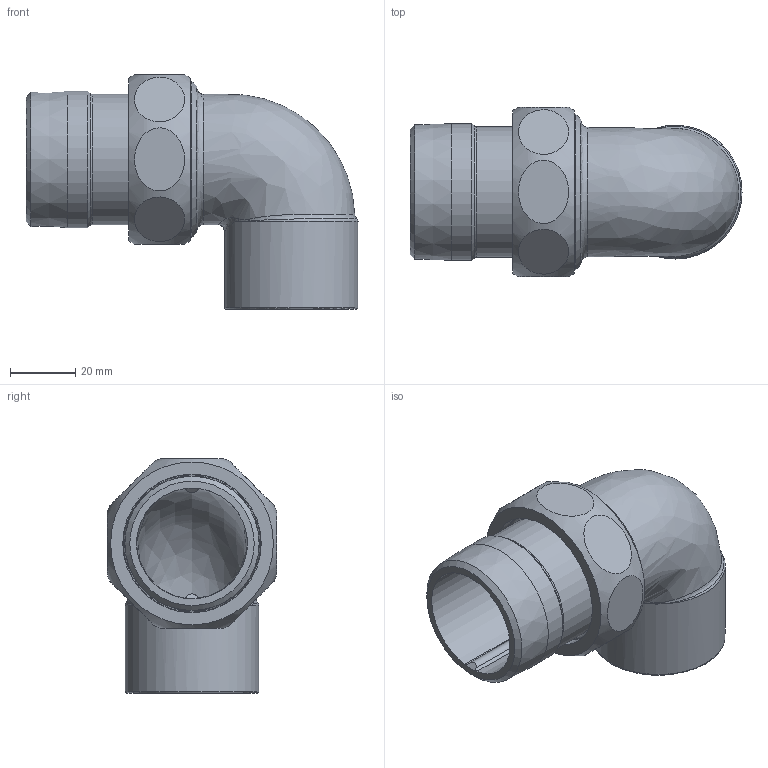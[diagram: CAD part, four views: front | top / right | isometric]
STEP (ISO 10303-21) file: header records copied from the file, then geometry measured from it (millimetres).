
FILE_DESCRIPTION((''),'2;1');
FILE_NAME('\\Lg50001\groups\SANHA Legnica\Engineering\Public\RYSUNKI\SANHA POLSKA\4098g\step\14098g_35-114(1).stp','2013-09-18T11:37:42',('lukawski'),(''),'Autodesk Inventor 2009','Autodesk Inventor 2009','');
FILE_SCHEMA(('AUTOMOTIVE_DESIGN { 1 0 10303 214 1 1 1 1 }'));
Length unit declared in the file: millimetre
Products named in the file (4): 14098g_35-114(1); 14382_114-112(2); 1E4098g_35-112(0); 14374_112(0)
Assembly tree (3 placements, depth 2):
  14098g_35-114(1)
    14382_114-112(2)
    1E4098g_35-112(0)
    14374_112(0)
Bounding box: 101.94 x 52 x 72 mm (x, y, z)
Volume: 62755.7 mm3; surface area: 38226.2 mm2
Topology: 3 solids, 3 shells, 57 faces, 113 edges, 73 vertices
Faces by surface type: plane 18, cylinder 17, cone 11, bspline 8, torus 3
Full cylindrical faces by diameter (mm): 35.09 x1, 40 x1, 41 x1, 41.91 x1, 42 x1, 42.5 x1, 44.5 x1, 44.845 x1, 47.803 x1
Entity records: 10211 total; most frequent: CARTESIAN_POINT 9069, DIRECTION 200, ORIENTED_EDGE 174, AXIS2_PLACEMENT_3D 96, EDGE_LOOP 96, EDGE_CURVE 87, VERTEX_POINT 69, FACE_OUTER_BOUND 57
